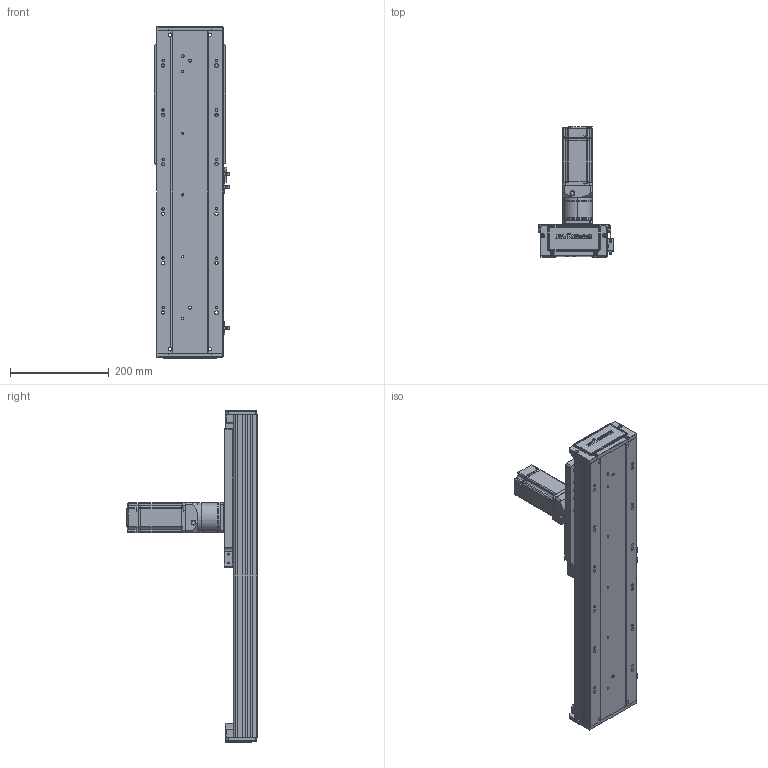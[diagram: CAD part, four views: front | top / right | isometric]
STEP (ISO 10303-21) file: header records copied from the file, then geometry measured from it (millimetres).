
FILE_DESCRIPTION (( 'STEP AP203' ), '1' );
FILE_NAME ('RY140-C-250-UK.SLDASM_300.step', '2022-03-12T01:58:08', ( '' ), ( '' ), 'SwSTEP 2.0', 'SolidWorks 2016', '' );
FILE_SCHEMA (( 'CONFIG_CONTROL_DESIGN' ));
Length unit declared in the file: millimetre
Products named in the file (12): 140蚥薯蝶輸; 60ZDF珨撰俋倛芞T1 200W M4; RY140-喘沭賑輸; RY140-300齿条模组型材底座_300; RY120外置感应片(140共用）; RY140-C-250-UK.SLDASM_300; RY140-喘謫萇儂覃誹啣; RY140-喘沭裔啣; 覜茼ん672; 15; RY140-絳寢EGH15-300-MK_300; 絳寢賑輸EGH15
Assembly tree (21 placements, depth 2):
  RY140-C-250-UK.SLDASM_300
    RY140-300齿条模组型材底座_300
    RY140-絳寢EGH15-300-MK_300  x2
    絳寢賑輸EGH15  x6
    RY140-喘沭裔啣  x2
    覜茼ん672  x3
    RY140-喘沭賑輸
    RY120外置感应片(140共用）
    RY140-喘謫萇儂覃誹啣
    140蚥薯蝶輸  x2
    60ZDF珨撰俋倛芞T1 200W M4
    15
Bounding box: 153.7 x 263.5 x 672 mm (x, y, z)
Volume: 3350669.5 mm3; surface area: 807950.9 mm2
Topology: 21 solids, 21 shells, 3028 faces, 7938 edges, 5152 vertices
Faces by surface type: plane 1608, cylinder 1182, cone 192, bspline 46
Entity records: 64369 total; most frequent: CARTESIAN_POINT 13389, DIRECTION 10385, ORIENTED_EDGE 10210, EDGE_CURVE 5105, AXIS2_PLACEMENT_3D 3621, VERTEX_POINT 3337, VECTOR 3143, LINE 3143
